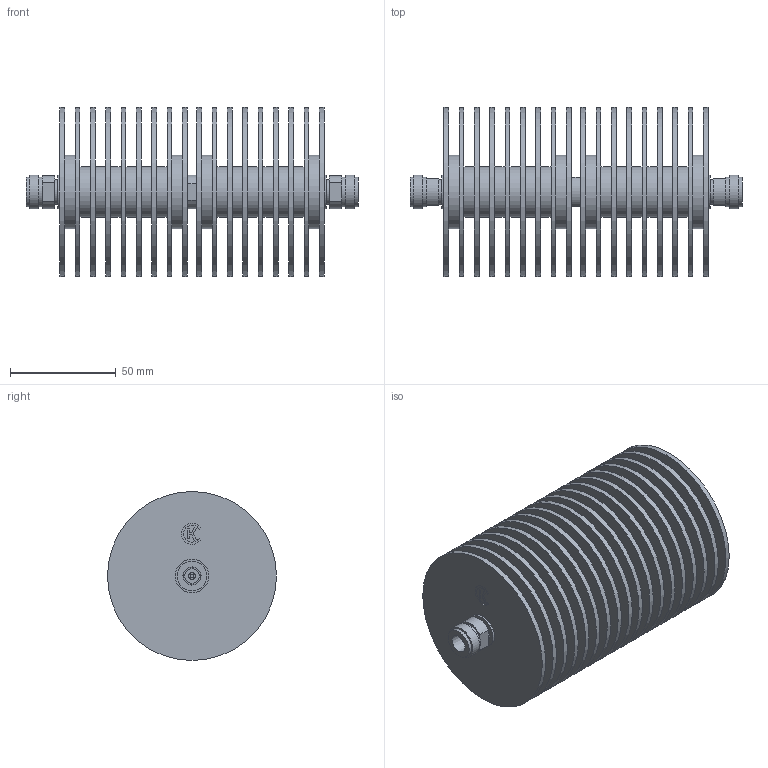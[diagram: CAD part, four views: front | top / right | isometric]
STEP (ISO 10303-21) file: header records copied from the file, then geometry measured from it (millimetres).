
FILE_DESCRIPTION(('STEP AP203'), '1');
FILE_NAME('ÏÐ1-25-100-IIIFF', '', ('UNSPECIFIED'), ('UNSPECIFIED'), 'C3D Converter', 'C3D Toolkit', '');
FILE_SCHEMA(('CONFIG_CONTROL_DESIGN'));
Length unit declared in the file: millimetre
Products named in the file (5): -01
Assembly tree (5 placements, depth 2):
  (unnamed)
    (unnamed)
    (unnamed)  x2
    (unnamed)
    -01
Bounding box: 157.1 x 80 x 80 mm (x, y, z)
Volume: 259335.7 mm3; surface area: 185681.5 mm2
Topology: 5 solids, 5 shells, 219 faces, 440 edges, 292 vertices
Faces by surface type: plane 140, cylinder 77, cone 2
Full cylindrical faces by diameter (mm): 1.66 x2, 3.04 x2, 7 x2, 8.06 x2, 11.6 x2, 14 x4, 15.87 x2, 16 x7, 24 x12, 35 x4, 80 x18
Entity records: 4910 total; most frequent: DIRECTION 658, CARTESIAN_POINT 574, ORIENTED_EDGE 480, AXIS2_PLACEMENT_3D 270, EDGE_CURVE 240, EDGE_LOOP 222, VERTEX_POINT 186, FACE_BOUND 147
